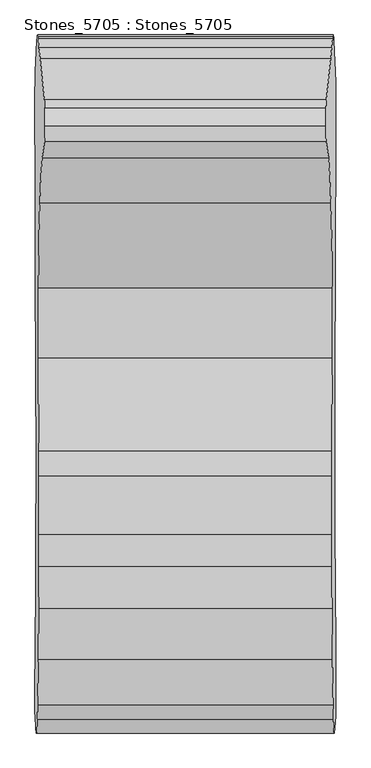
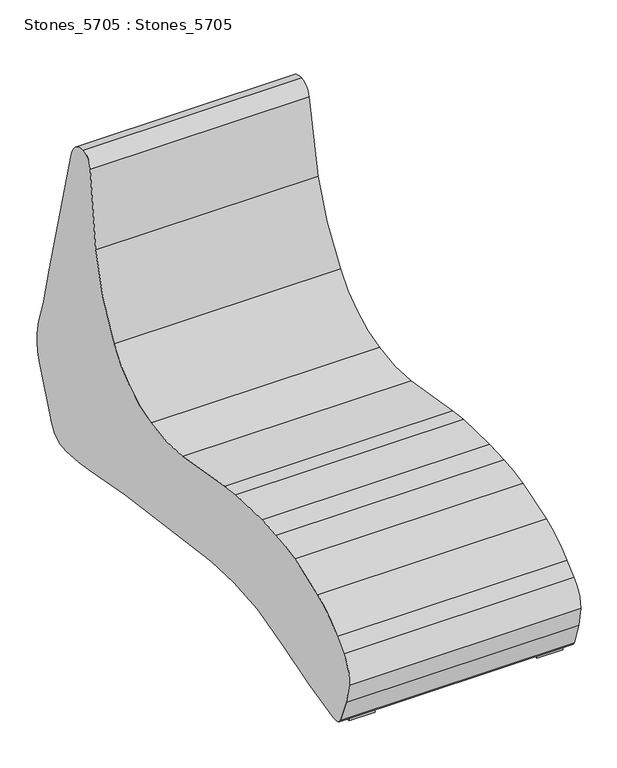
"""IFC4 building model written with IfcOpenShell, lengths in millimetres: furniture geometry, Stones_5705 : Stones_5705."""

from ifc_helpers import new_model, si_unit, frame, origin, origin_with_axes, place, context, project, spatial, polyline, ellipse_curve, outline, extrude, source, transform, mapped, element, save
from ifc_brep_helpers import plane_surface, cylinder_surface, revolved_surface, advanced_brep


def stones_5705_stones_5705_17339cd3(model_context):
    return source(origin(), model_context, "Body", "SolidModel", [
        advanced_brep(
        [(-357.625227, -137.1478931, 8.2630205), (-357.5570917, -127.4895266, 11.1199759), (357.5570917, -127.4895266, 11.1199759), (357.625227, -137.1478931, 8.2630205), (-357.2149059, -105.3452484, 25.468028), (357.2149059, -105.3452484, 25.468028), (-356.6628791, -86.9014651, 48.6148378), (356.6628791, -86.9014651, 48.6148378), (-352.9469523, -13.8199413, 204.4258397), (352.9469523, -13.8199413, 204.4258397), (-351.1131568, 0.0, 281.317971), (351.1131568, 0.0, 281.317971), (-350.355235, -4.4027591, 313.0980783), (350.355235, -4.4027591, 313.0980783), (-350.0250657, -8.2331512, 326.9422737), (350.0250657, -8.2331512, 326.9422737), (-348.1981378, -29.7911542, 403.5464371), (348.1981378, -29.7911542, 403.5464371), (-345.4162211, -55.4959949, 520.1938475), (345.4162211, -55.4959949, 520.1938475), (-335.2071114, -153.1739353, 948.2678455), (335.2071114, -153.1739353, 948.2678455), (-334.342492, -173.7366226, 984.5218463), (334.342492, -173.7366226, 984.5218463), (-333.9733545, -215.9651414, 1000.0), (333.9733545, -215.9651414, 1000.0), (-334.8682189, -253.2640105, 962.4778067), (334.8682189, -253.2640105, 962.4778067), (-340.491559, -291.9329802, 726.6878386), (340.491559, -291.9329802, 726.6878386), (-346.1254649, -399.4275516, 490.4548379), (346.1254649, -399.4275516, 490.4548379), (-349.3026084, -600.6259158, 357.235335), (349.3026084, -600.6259158, 357.235335), (-349.448075, -767.8396094, 351.1358345), (349.448075, -767.8396094, 351.1358345), (-348.5654972, -988.6209784, 388.1428416), (348.5654972, -988.6209784, 388.1428416), (-348.3548612, -1048.6352078, 396.974932), (348.3548612, -1048.6352078, 396.974932), (-357.6746464, -166.7815223, 6.1908353), (357.6746464, -166.7815223, 6.1908353), (-357.3751157, -293.6519886, 18.7503368), (-356.5957999, -478.7460909, 51.4275049), (-355.282294, -885.492078, 106.5035859), (-355.1495688, -928.9243354, 112.0688317), (-355.3053525, -1175.1021406, 105.5367276), (-356.1237181, -1314.8636242, 71.2221744), (-357.0659381, -1453.0565344, 31.7143364), (-357.6610916, -1560.4132119, 6.7591968), (-357.7480936, -1583.0164177, 3.1111497), (-357.6959132, -1607.6789072, 5.2991069), (-357.5846366, -1614.9091309, 9.9649997), (-357.4055589, -1619.841025, 17.4738346), (-355.6366947, -1647.7697517, 91.6433543), (-354.1497683, -1659.9998739, 153.9910573), (-352.2022231, -1627.5580827, 235.6527757), (-351.4066568, -1592.2380629, 269.0113415), (-349.7429635, -1485.0183198, 338.7709827), (-348.7617056, -1363.3145385, 379.9157072), (-348.3672402, -1263.1999337, 396.4558727), (-348.2827166, -1187.3661014, 400.0), (348.2827166, -1187.3661014, 400.0), (348.3672402, -1263.1999337, 396.4558727), (348.7617056, -1363.3145385, 379.9157072), (349.7429635, -1485.0183198, 338.7709827), (351.4066568, -1592.2380629, 269.0113415), (352.2022231, -1627.5580827, 235.6527757), (354.1497683, -1659.9998739, 153.9910573), (355.6366947, -1647.7697517, 91.6433543), (357.4055589, -1619.841025, 17.4738346), (357.5846366, -1614.9091309, 9.9649997), (357.6959132, -1607.6789072, 5.2991069), (357.7480936, -1583.0164177, 3.1111497), (357.6610916, -1560.4132119, 6.7591968), (357.0659381, -1453.0565344, 31.7143364), (356.1237181, -1314.8636242, 71.2221744), (355.3053525, -1175.1021406, 105.5367276), (355.1495688, -928.9243354, 112.0688317), (355.282294, -885.492078, 106.5035859), (356.5957999, -478.7460909, 51.4275049), (357.3751157, -293.6519886, 18.7503368)],
        [
            (0, 1, ellipse_curve(frame((-356.8857064, -141.0685227, 39.2715543), z_axis=(0.9997157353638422, 0.0, -0.02384215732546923), x_axis=(0.023842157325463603, 0.0, 0.9997157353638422)), 31.2642949, 31.2554075)),
            (1, 2),
            (2, 3, ellipse_curve(frame((356.8857064, -141.0685227, 39.2715543), z_axis=(-0.9997157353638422, 0.0, -0.02384215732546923), x_axis=(0.023842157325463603, 0.0, -0.9997157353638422)), 31.2642949, 31.2554075)),
            (3, 0),
            (1, 4, ellipse_curve(frame((-355.2928617, -173.2843532, 106.0604737), z_axis=(0.9997157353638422, 0.0, -0.02384215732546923), x_axis=(0.023842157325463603, 0.0, 0.9997157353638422)), 105.4380568, 105.4080845)),
            (4, 5),
            (5, 2, ellipse_curve(frame((355.2928617, -173.2843532, 106.0604737), z_axis=(-0.9997157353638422, 0.0, -0.02384215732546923), x_axis=(0.023842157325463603, 0.0, -0.9997157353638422)), 105.4380568, 105.4080845)),
            (4, 6, ellipse_curve(frame((-355.8403142, -153.9333781, 83.1054699), z_axis=(0.9997157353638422, 0.0, -0.02384215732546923), x_axis=(0.023842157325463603, 0.0, 0.9997157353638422)), 75.4063215, 75.3848861)),
            (6, 7),
            (7, 5, ellipse_curve(frame((355.8403142, -153.9333781, 83.1054699), z_axis=(-0.9997157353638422, 0.0, -0.02384215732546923), x_axis=(0.023842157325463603, 0.0, -0.9997157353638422)), 75.4063215, 75.3848861)),
            (6, 8, ellipse_curve(frame((-331.0300964, -2175.7511749, 1123.4125506), z_axis=(0.9997157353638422, 0.0, -0.02384215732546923), x_axis=(0.023842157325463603, 0.0, 0.9997157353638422)), 2349.8131821, 2349.1452134)),
            (8, 9),
            (9, 7, ellipse_curve(frame((331.0300964, -2175.7511749, 1123.4125506), z_axis=(-0.9997157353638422, 0.0, -0.02384215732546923), x_axis=(0.023842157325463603, 0.0, -0.9997157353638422)), 2349.8131821, 2349.1452134)),
            (8, 10, ellipse_curve(frame((-351.3070497, -175.58387, 273.1879253), z_axis=(0.9997157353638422, 0.0, -0.02384215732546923), x_axis=(0.023842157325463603, 0.0, 0.9997157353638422)), 175.8219716, 175.7719916)),
            (10, 11),
            (11, 9, ellipse_curve(frame((351.3070497, -175.58387, 273.1879253), z_axis=(-0.9997157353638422, 0.0, -0.02384215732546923), x_axis=(0.023842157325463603, 0.0, -0.9997157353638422)), 175.8219716, 175.7719916)),
            (10, 12, ellipse_curve(frame((-351.3070497, -175.58387, 273.1879253), z_axis=(0.9997157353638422, 0.0, -0.02384215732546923), x_axis=(0.023842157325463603, 0.0, 0.9997157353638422)), 175.8219716, 175.7719916)),
            (12, 13),
            (13, 11, ellipse_curve(frame((351.3070497, -175.58387, 273.1879253), z_axis=(-0.9997157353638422, 0.0, -0.02384215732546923), x_axis=(0.023842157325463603, 0.0, -0.9997157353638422)), 175.8219716, 175.7719916)),
            (12, 14, ellipse_curve(frame((-351.3070497, -175.58387, 273.1879253), z_axis=(0.9997157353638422, 0.0, -0.02384215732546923), x_axis=(0.023842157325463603, 0.0, 0.9997157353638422)), 175.8219716, 175.7719916)),
            (14, 15),
            (15, 13, ellipse_curve(frame((351.3070497, -175.58387, 273.1879253), z_axis=(-0.9997157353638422, 0.0, -0.02384215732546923), x_axis=(0.023842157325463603, 0.0, -0.9997157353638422)), 175.8219716, 175.7719916)),
            (14, 16, ellipse_curve(frame((-342.0664515, 1030.6875758, 660.6516663), z_axis=(-0.9997157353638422, 0.0, 0.02384215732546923), x_axis=(-0.023842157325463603, 0.0, -0.9997157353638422)), 1091.5106425, 1091.2003646)),
            (16, 17),
            (17, 15, ellipse_curve(frame((342.0664515, 1030.6875758, 660.6516663), z_axis=(0.9997157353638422, 0.0, 0.02384215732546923), x_axis=(-0.023842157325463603, 0.0, 0.9997157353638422)), 1091.5106425, 1091.2003646)),
            (16, 18, ellipse_curve(frame((-332.1827892, 2740.0727305, 1075.0794615), z_axis=(-0.9997157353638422, 0.0, 0.02384215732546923), x_axis=(-0.023842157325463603, 0.0, -0.9997157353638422)), 2850.9161219, 2850.1057073)),
            (18, 19),
            (19, 17, ellipse_curve(frame((332.1827892, 2740.0727305, 1075.0794615), z_axis=(0.9997157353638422, 0.0, 0.02384215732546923), x_axis=(-0.023842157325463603, 0.0, 0.9997157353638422)), 2850.9161219, 2850.1057073)),
            (18, 20, ellipse_curve(frame((-381.3156698, -7639.2714517, -985.0912354), z_axis=(0.9997157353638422, 0.0, -0.02384215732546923), x_axis=(0.023842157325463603, 0.0, 0.9997157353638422)), 7733.9210154, 7731.7225351)),
            (20, 21),
            (21, 19, ellipse_curve(frame((381.3156698, -7639.2714517, -985.0912354), z_axis=(-0.9997157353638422, 0.0, -0.02384215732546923), x_axis=(0.023842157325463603, 0.0, -0.9997157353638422)), 7733.9210154, 7731.7225351)),
            (20, 22, ellipse_curve(frame((-335.6847863, -230.7283261, 928.2386534), z_axis=(0.9997157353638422, 0.0, -0.02384215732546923), x_axis=(0.023842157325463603, 0.0, 0.9997157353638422)), 80.12179, 80.0990142)),
            (22, 23),
            (23, 21, ellipse_curve(frame((335.6847863, -230.7283261, 928.2386534), z_axis=(-0.9997157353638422, 0.0, -0.02384215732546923), x_axis=(0.023842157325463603, 0.0, -0.9997157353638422)), 80.12179, 80.0990142)),
            (22, 24, ellipse_curve(frame((-335.2266321, -211.2758175, 947.4493319), z_axis=(0.9997157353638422, 0.0, -0.02384215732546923), x_axis=(0.023842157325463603, 0.0, 0.9997157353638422)), 52.7744795, 52.7594776)),
            (24, 25),
            (25, 23, ellipse_curve(frame((335.2266321, -211.2758175, 947.4493319), z_axis=(-0.9997157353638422, 0.0, -0.02384215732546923), x_axis=(0.023842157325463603, 0.0, -0.9997157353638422)), 52.7744795, 52.7594776)),
            (24, 26, ellipse_curve(frame((-334.9494956, -212.3127647, 959.0698278), z_axis=(0.9997157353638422, 0.0, -0.02384215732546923), x_axis=(0.023842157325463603, 0.0, 0.9997157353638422)), 41.1044923, 41.0928078)),
            (26, 27),
            (27, 25, ellipse_curve(frame((334.9494956, -212.3127647, 959.0698278), z_axis=(-0.9997157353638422, 0.0, -0.02384215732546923), x_axis=(0.023842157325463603, 0.0, -0.9997157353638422)), 41.1044923, 41.0928078)),
            (26, 28, ellipse_curve(frame((-331.8935964, -1752.0273556, 1087.2054843), z_axis=(-0.9997157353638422, 0.0, 0.02384215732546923), x_axis=(-0.023842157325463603, 0.0, -0.9997157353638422)), 1504.3719732, 1503.9443334)),
            (28, 29),
            (29, 27, ellipse_curve(frame((331.8935964, -1752.0273556, 1087.2054843), z_axis=(0.9997157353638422, 0.0, 0.02384215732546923), x_axis=(-0.023842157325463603, 0.0, 0.9997157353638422)), 1504.3719732, 1503.9443334)),
            (28, 30, ellipse_curve(frame((-336.4575698, -976.9795709, 895.835387), z_axis=(-0.9997157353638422, 0.0, 0.02384215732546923), x_axis=(-0.023842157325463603, 0.0, -0.9997157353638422)), 705.8207392, 705.6200993)),
            (30, 31),
            (31, 29, ellipse_curve(frame((336.4575698, -976.9795709, 895.835387), z_axis=(0.9997157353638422, 0.0, 0.02384215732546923), x_axis=(-0.023842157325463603, 0.0, 0.9997157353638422)), 705.8207392, 705.6200993)),
            (30, 32, ellipse_curve(frame((-341.6000383, -669.7727762, 680.208647), z_axis=(-0.9997157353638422, 0.0, 0.02384215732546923), x_axis=(-0.023842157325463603, 0.0, -0.9997157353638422)), 330.3862854, 330.2923683)),
            (32, 33),
            (33, 31, ellipse_curve(frame((341.6000383, -669.7727762, 680.208647), z_axis=(0.9997157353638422, 0.0, 0.02384215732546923), x_axis=(-0.023842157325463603, 0.0, 0.9997157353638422)), 330.3862854, 330.2923683)),
            (32, 34, ellipse_curve(frame((-338.0616615, -701.537193, 828.5748758), z_axis=(-0.9997157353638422, 0.0, 0.02384215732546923), x_axis=(-0.023842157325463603, 0.0, -0.9997157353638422)), 482.1578573, 482.0207968)),
            (34, 35),
            (35, 33, ellipse_curve(frame((338.0616615, -701.537193, 828.5748758), z_axis=(0.9997157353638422, 0.0, 0.02384215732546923), x_axis=(-0.023842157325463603, 0.0, 0.9997157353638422)), 482.1578573, 482.0207968)),
            (34, 36, ellipse_curve(frame((-255.2945206, -219.5889972, 4299.0499666), z_axis=(-0.9997157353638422, 0.0, 0.02384215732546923), x_axis=(-0.023842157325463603, 0.0, -0.9997157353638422)), 3986.9337316, 3985.8003874)),
            (36, 37),
            (37, 35, ellipse_curve(frame((255.2945206, -219.5889972, 4299.0499666), z_axis=(0.9997157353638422, 0.0, 0.02384215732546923), x_axis=(-0.023842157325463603, 0.0, 0.9997157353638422)), 3986.9337316, 3985.8003874)),
            (36, 38, ellipse_curve(frame((-363.3445576, -1110.4763566, -231.5518895), z_axis=(0.9997157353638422, 0.0, -0.02384215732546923), x_axis=(0.023842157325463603, 0.0, 0.9997157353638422)), 631.7413704, 631.5617887)),
            (38, 39),
            (39, 37, ellipse_curve(frame((363.3445576, -1110.4763566, -231.5518895), z_axis=(-0.9997157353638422, 0.0, -0.02384215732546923), x_axis=(0.023842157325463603, 0.0, -0.9997157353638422)), 631.7413704, 631.5617887)),
            (40, 0, ellipse_curve(frame((-351.3415384, -170.4613889, 271.7417931), z_axis=(0.9997157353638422, 0.0, -0.02384215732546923), x_axis=(0.023842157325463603, 0.0, 0.9997157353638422)), 265.6519689, 265.5764534)),
            (3, 41, ellipse_curve(frame((351.3415384, -170.4613889, 271.7417931), z_axis=(-0.9997157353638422, 0.0, -0.02384215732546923), x_axis=(0.023842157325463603, 0.0, -0.9997157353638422)), 265.6519689, 265.5764534)),
            (41, 40),
            (40, 42, ellipse_curve(frame((-346.7918869, -185.6651113, 462.5113678), z_axis=(-0.9997157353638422, 0.0, 0.02384215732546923), x_axis=(0.023842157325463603, 0.0, 0.9997157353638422)), 456.8409522, 456.7110885)),
            (42, 43, ellipse_curve(frame((-391.4455076, -641.292139, -1409.8413166), z_axis=(0.9997157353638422, 0.0, -0.02384215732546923), x_axis=(-0.023842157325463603, 0.0, -0.9997157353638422)), 1470.6996009, 1470.281533)),
            (43, 44, ellipse_curve(frame((-152.2478605, 474.3738122, 8619.8572714), z_axis=(-0.9997157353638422, 0.0, 0.02384215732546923), x_axis=(0.023842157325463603, 0.0, 0.9997157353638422)), 8623.7289491, 8621.2775279)),
            (44, 45, ellipse_curve(frame((-371.9423963, -997.0766229, -592.0643411), z_axis=(0.9997157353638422, 0.0, -0.02384215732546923), x_axis=(-0.023842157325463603, 0.0, -0.9997157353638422)), 707.6248301, 707.4236773)),
            (45, 46, ellipse_curve(frame((-378.9699921, -1025.5975333, -886.735582), z_axis=(0.9997157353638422, 0.0, -0.02384215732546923), x_axis=(-0.023842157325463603, 0.0, -0.9997157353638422)), 1003.7572874, 1003.4719547)),
            (46, 47, ellipse_curve(frame((-373.9345894, -1057.4093803, -675.5981762), z_axis=(0.9997157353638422, 0.0, -0.02384215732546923), x_axis=(-0.023842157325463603, 0.0, -0.9997157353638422)), 790.1760883, 789.9514692)),
            (47, 48, ellipse_curve(frame((-325.8311147, -1752.7399735, 1341.4089223), z_axis=(-0.9997157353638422, 0.0, 0.02384215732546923), x_axis=(0.023842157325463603, 0.0, 0.9997157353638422)), 1343.9258788, 1343.5438482)),
            (48, 49, ellipse_curve(frame((-728.6411494, 2112.0328561, -15548.6536889), z_axis=(0.9997157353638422, 0.0, -0.02384215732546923), x_axis=(-0.023842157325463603, 0.0, -0.9997157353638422)), 15987.5897907, 15983.0450843)),
            (49, 50, ellipse_curve(frame((-346.0455935, -1650.615841, 493.8038901), z_axis=(-0.9997157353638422, 0.0, 0.02384215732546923), x_axis=(0.023842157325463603, 0.0, 0.9997157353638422)), 495.4680566, 495.3272126)),
            (50, 51, ellipse_curve(frame((-356.4393569, -1590.5763277, 57.9872536), z_axis=(-0.9997157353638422, 0.0, 0.02384215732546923), x_axis=(0.023842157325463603, 0.0, 0.9997157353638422)), 55.4101464, 55.3943952)),
            (51, 52, ellipse_curve(frame((-357.3151533, -1602.4965079, 21.2645943), z_axis=(-0.9997157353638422, 0.0, 0.02384215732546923), x_axis=(0.023842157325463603, 0.0, 0.9997157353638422)), 16.7903038, 16.7855309)),
            (52, 53, ellipse_curve(frame((-357.1244198, -1593.7111675, 29.2621612), z_axis=(-0.9997157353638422, 0.0, 0.02384215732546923), x_axis=(0.023842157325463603, 0.0, 0.9997157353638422)), 28.6740557, 28.6659047)),
            (53, 54, ellipse_curve(frame((-351.2978502, -1052.1733385, 273.5736653), z_axis=(-0.9997157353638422, 0.0, 0.02384215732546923), x_axis=(0.023842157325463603, 0.0, 0.9997157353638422)), 622.9400568, 622.762977)),
            (54, 55, ellipse_curve(frame((-353.4789826, -1351.5789988, 182.1174985), z_axis=(-0.9997157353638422, 0.0, 0.02384215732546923), x_axis=(0.023842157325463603, 0.0, 0.9997157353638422)), 309.788777, 309.700715)),
            (55, 56, ellipse_curve(frame((-353.9392755, -1563.2173108, 162.817143), z_axis=(-0.9997157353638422, 0.0, 0.02384215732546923), x_axis=(0.023842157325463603, 0.0, 0.9997157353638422)), 97.2118112, 97.1841773)),
            (56, 57, ellipse_curve(frame((-339.1595536, -2110.6611988, 782.5396111), z_axis=(0.9997157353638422, 0.0, -0.02384215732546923), x_axis=(-0.023842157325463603, 0.0, -0.9997157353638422)), 729.9155346, 729.7080454)),
            (57, 58, ellipse_curve(frame((-356.4769069, -1377.6130268, 56.4127599), z_axis=(-0.9997157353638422, 0.0, 0.02384215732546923), x_axis=(0.023842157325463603, 0.0, 0.9997157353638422)), 302.1820151, 302.0961155)),
            (58, 59, ellipse_curve(frame((-387.9601801, -875.4599815, -1263.6994755), z_axis=(-0.9997157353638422, 0.0, 0.02384215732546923), x_axis=(0.023842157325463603, 0.0, 0.9997157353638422)), 1714.9766257, 1714.4891185)),
            (59, 60, ellipse_curve(frame((-358.0804427, -1247.3358323, -10.8244418), z_axis=(-0.9997157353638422, 0.0, 0.02384215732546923), x_axis=(0.023842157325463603, 0.0, 0.9997157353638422)), 407.7050572, 407.5891611)),
            (60, 61, ellipse_curve(frame((-231.9440227, -1453.348315, 5278.1501308), z_axis=(0.9997157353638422, 0.0, -0.02384215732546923), x_axis=(-0.023842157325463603, 0.0, -0.9997157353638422)), 4886.785259, 4885.3961187)),
            (61, 38, ellipse_curve(frame((-369.9657709, -1137.7926826, -509.1832713), z_axis=(-0.9997157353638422, 0.0, 0.02384215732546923), x_axis=(0.023842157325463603, 0.0, 0.9997157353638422)), 910.7926753, 910.5337691)),
            (39, 62, ellipse_curve(frame((369.9657709, -1137.7926826, -509.1832713), z_axis=(0.9997157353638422, 0.0, 0.02384215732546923), x_axis=(0.023842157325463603, 0.0, -0.9997157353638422)), 910.7926753, 910.5337691)),
            (62, 63, ellipse_curve(frame((231.9440227, -1453.348315, 5278.1501308), z_axis=(-0.9997157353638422, 0.0, -0.02384215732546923), x_axis=(-0.023842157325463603, 0.0, 0.9997157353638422)), 4886.785259, 4885.3961187)),
            (63, 64, ellipse_curve(frame((358.0804427, -1247.3358323, -10.8244418), z_axis=(0.9997157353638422, 0.0, 0.02384215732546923), x_axis=(0.023842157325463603, 0.0, -0.9997157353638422)), 407.7050572, 407.5891611)),
            (64, 65, ellipse_curve(frame((387.9601801, -875.4599815, -1263.6994755), z_axis=(0.9997157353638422, 0.0, 0.02384215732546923), x_axis=(0.023842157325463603, 0.0, -0.9997157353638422)), 1714.9766257, 1714.4891185)),
            (65, 66, ellipse_curve(frame((356.4769069, -1377.6130268, 56.4127599), z_axis=(0.9997157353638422, 0.0, 0.02384215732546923), x_axis=(0.023842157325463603, 0.0, -0.9997157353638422)), 302.1820151, 302.0961155)),
            (66, 67, ellipse_curve(frame((339.1595536, -2110.6611988, 782.5396111), z_axis=(-0.9997157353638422, 0.0, -0.02384215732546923), x_axis=(-0.023842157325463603, 0.0, 0.9997157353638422)), 729.9155346, 729.7080454)),
            (67, 68, ellipse_curve(frame((353.9392755, -1563.2173108, 162.817143), z_axis=(0.9997157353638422, 0.0, 0.02384215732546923), x_axis=(0.023842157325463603, 0.0, -0.9997157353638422)), 97.2118112, 97.1841773)),
            (68, 69, ellipse_curve(frame((353.4789826, -1351.5789988, 182.1174985), z_axis=(0.9997157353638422, 0.0, 0.02384215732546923), x_axis=(0.023842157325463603, 0.0, -0.9997157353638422)), 309.788777, 309.700715)),
            (69, 70, ellipse_curve(frame((351.2978502, -1052.1733385, 273.5736653), z_axis=(0.9997157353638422, 0.0, 0.02384215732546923), x_axis=(0.023842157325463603, 0.0, -0.9997157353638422)), 622.9400568, 622.762977)),
            (70, 71, ellipse_curve(frame((357.1244198, -1593.7111675, 29.2621612), z_axis=(0.9997157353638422, 0.0, 0.02384215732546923), x_axis=(0.023842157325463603, 0.0, -0.9997157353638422)), 28.6740557, 28.6659047)),
            (71, 72, ellipse_curve(frame((357.3151533, -1602.4965079, 21.2645943), z_axis=(0.9997157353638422, 0.0, 0.02384215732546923), x_axis=(0.023842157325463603, 0.0, -0.9997157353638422)), 16.7903038, 16.7855309)),
            (72, 73, ellipse_curve(frame((356.4393569, -1590.5763277, 57.9872536), z_axis=(0.9997157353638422, 0.0, 0.02384215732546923), x_axis=(0.023842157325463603, 0.0, -0.9997157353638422)), 55.4101464, 55.3943952)),
            (73, 74, ellipse_curve(frame((346.0455935, -1650.615841, 493.8038901), z_axis=(0.9997157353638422, 0.0, 0.02384215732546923), x_axis=(0.023842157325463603, 0.0, -0.9997157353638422)), 495.4680566, 495.3272126)),
            (74, 75, ellipse_curve(frame((728.6411494, 2112.0328561, -15548.6536889), z_axis=(-0.9997157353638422, 0.0, -0.02384215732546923), x_axis=(-0.023842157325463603, 0.0, 0.9997157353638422)), 15987.5897907, 15983.0450843)),
            (75, 76, ellipse_curve(frame((325.8311147, -1752.7399735, 1341.4089223), z_axis=(0.9997157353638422, 0.0, 0.02384215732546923), x_axis=(0.023842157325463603, 0.0, -0.9997157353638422)), 1343.9258788, 1343.5438482)),
            (76, 77, ellipse_curve(frame((373.9345894, -1057.4093803, -675.5981762), z_axis=(-0.9997157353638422, 0.0, -0.02384215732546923), x_axis=(-0.023842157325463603, 0.0, 0.9997157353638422)), 790.1760883, 789.9514692)),
            (77, 78, ellipse_curve(frame((378.9699921, -1025.5975333, -886.735582), z_axis=(-0.9997157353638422, 0.0, -0.02384215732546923), x_axis=(-0.023842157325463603, 0.0, 0.9997157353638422)), 1003.7572874, 1003.4719547)),
            (78, 79, ellipse_curve(frame((371.9423963, -997.0766229, -592.0643411), z_axis=(-0.9997157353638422, 0.0, -0.02384215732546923), x_axis=(-0.023842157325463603, 0.0, 0.9997157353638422)), 707.6248301, 707.4236773)),
            (79, 80, ellipse_curve(frame((152.2478605, 474.3738122, 8619.8572714), z_axis=(0.9997157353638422, 0.0, 0.02384215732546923), x_axis=(0.023842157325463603, 0.0, -0.9997157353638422)), 8623.7289491, 8621.2775279)),
            (80, 81, ellipse_curve(frame((391.4455076, -641.292139, -1409.8413166), z_axis=(-0.9997157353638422, 0.0, -0.02384215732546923), x_axis=(-0.023842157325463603, 0.0, 0.9997157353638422)), 1470.6996009, 1470.281533)),
            (81, 41, ellipse_curve(frame((346.7918869, -185.6651113, 462.5113678), z_axis=(0.9997157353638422, 0.0, 0.02384215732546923), x_axis=(0.023842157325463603, 0.0, -0.9997157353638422)), 456.8409522, 456.7110885)),
            (61, 62),
            (60, 63),
            (59, 64),
            (58, 65),
            (57, 66),
            (56, 67),
            (55, 68),
            (54, 69),
            (48, 75),
            (74, 49),
            (47, 76),
            (46, 77),
            (45, 78),
            (44, 79),
            (43, 80),
            (42, 81),
            (53, 70),
            (52, 71),
            (51, 72),
            (50, 73),
        ],
        [
            cylinder_surface(frame((-360.0, -141.0685227, 39.2715543), z_axis=(1.0, 0.0, 0.0), x_axis=(0.0, 1.0, 0.0)), 31.2554075),
            cylinder_surface(frame((-360.0, -173.2843532, 106.0604737), z_axis=(1.0, 0.0, 0.0), x_axis=(0.0, 1.0, 0.0)), 105.4080845),
            cylinder_surface(frame((-360.0, -153.9333781, 83.1054699), z_axis=(1.0, 0.0, 0.0), x_axis=(0.0, 1.0, 0.0)), 75.3848861),
            cylinder_surface(frame((-360.0, -2175.7511749, 1123.4125506), z_axis=(1.0, 0.0, 0.0), x_axis=(0.0, 1.0, 0.0)), 2349.1452134),
            cylinder_surface(frame((-360.0, -175.58387, 273.1879253), z_axis=(1.0, 0.0, 0.0), x_axis=(0.0, 1.0, 0.0)), 175.7719916),
            revolved_surface(polyline([(-368.09041996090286, 2121.8879404, 660.6516663), (368.090419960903, 2121.8879404, 660.6516663)]), (-360.0, 1030.6875758, 660.6516663), (-1.0, 0.0, 0.0)),
            revolved_surface(polyline([(-400.15477990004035, 5590.1784378, 1075.0794615), (400.15477990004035, 5590.1784378, 1075.0794615)]), (-360.0, 2740.0727305, 1075.0794615), (-1.0, 0.0, 0.0)),
            cylinder_surface(frame((-360.0, -7639.2714517, -985.0912354), z_axis=(1.0, 0.0, 0.0), x_axis=(0.0, 1.0, 0.0)), 7731.7225351),
            cylinder_surface(frame((-360.0, -230.7283261, 928.2386534), z_axis=(1.0, 0.0, 0.0), x_axis=(0.0, 1.0, 0.0)), 80.0990142),
            cylinder_surface(frame((-360.0, -211.2758175, 947.4493319), z_axis=(1.0, 0.0, 0.0), x_axis=(0.0, 1.0, 0.0)), 52.7594776),
            cylinder_surface(frame((-360.0, -212.3127647, 959.0698278), z_axis=(1.0, 0.0, 0.0), x_axis=(0.0, 1.0, 0.0)), 41.0928078),
            revolved_surface(polyline([(-367.7610696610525, -248.08302219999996, 1087.2054843), (367.7610696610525, -248.08302219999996, 1087.2054843)]), (-360.0, -1752.0273556, 1087.2054843), (-1.0, 0.0, 0.0)),
            revolved_surface(polyline([(-353.2858589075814, -271.3594716, 895.835387), (353.2858589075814, -271.3594716, 895.835387)]), (-360.0, -976.9795709, 895.835387), (-1.0, 0.0, 0.0)),
            revolved_surface(polyline([(-349.4771600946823, -339.48040789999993, 680.208647), (349.4771600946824, -339.48040789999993, 680.208647)]), (-360.0, -669.7727762, 680.208647), (-1.0, 0.0, 0.0)),
            revolved_surface(polyline([(-349.55734498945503, -219.51639619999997, 828.5748758), (349.55734498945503, -219.51639619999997, 828.5748758)]), (-360.0, -701.537193, 828.5748758), (-1.0, 0.0, 0.0)),
            revolved_surface(polyline([(-350.35162187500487, 3766.2113902, 4299.0499666), (350.35162187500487, 3766.2113902, 4299.0499666)]), (-360.0, -219.5889972, 4299.0499666), (-1.0, 0.0, 0.0)),
            cylinder_surface(frame((-360.0, -1110.4763566, -231.5518895), z_axis=(1.0, 0.0, 0.0), x_axis=(0.0, 1.0, 0.0)), 631.5617887),
            cylinder_surface(frame((-360.0, -170.4613889, 271.7417931), z_axis=(1.0, 0.0, 0.0), x_axis=(0.0, 1.0, 0.0)), 265.5764534),
            plane_surface(frame((-359.1941931, -1853.081951, -57.5246549), z_axis=(-0.9997157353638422, 0.0, 0.02384215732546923), x_axis=(0.0, 1.0, 0.0))),
            plane_surface(frame((332.483384, -1853.081951, 1062.4753451), z_axis=(0.9997157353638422, 0.0, 0.02384215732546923), x_axis=(0.0, 1.0, 0.0))),
            cylinder_surface(frame((-360.0, -1137.7926826, -509.1832713), z_axis=(1.0, 0.0, 0.0), x_axis=(0.0, 1.0, 0.0)), 910.5337691),
            revolved_surface(polyline([(-348.4555256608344, 3432.0478037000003, 5278.1501308), (348.4555256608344, 3432.0478037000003, 5278.1501308)]), (-360.0, -1453.348315, 5278.1501308), (-1.0, 0.0, 0.0)),
            cylinder_surface(frame((-360.0, -1247.3358323, -10.8244418), z_axis=(1.0, 0.0, 0.0), x_axis=(0.0, 1.0, 0.0)), 407.5891611),
            cylinder_surface(frame((-360.0, -875.4599815, -1263.6994755), z_axis=(1.0, 0.0, 0.0), x_axis=(0.0, 1.0, 0.0)), 1714.4891185),
            cylinder_surface(frame((-360.0, -1377.6130268, 56.4127599), z_axis=(1.0, 0.0, 0.0), x_axis=(0.0, 1.0, 0.0)), 302.0961155),
            revolved_surface(polyline([(-356.56231461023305, -1380.9531534, 782.5396111), (356.5623146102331, -1380.9531534, 782.5396111)]), (-360.0, -2110.6611988, 782.5396111), (-1.0, 0.0, 0.0)),
            cylinder_surface(frame((-360.0, -1563.2173108, 162.817143), z_axis=(1.0, 0.0, 0.0), x_axis=(0.0, 1.0, 0.0)), 97.1841773),
            cylinder_surface(frame((-360.0, -1351.5789988, 182.1174985), z_axis=(1.0, 0.0, 0.0), x_axis=(0.0, 1.0, 0.0)), 309.700715),
            revolved_surface(polyline([(-1109.819780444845, 18095.0779404, -15548.6536889), (1109.819780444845, 18095.0779404, -15548.6536889)]), (-360.0, 2112.0328561, -15548.6536889), (-1.0, 0.0, 0.0)),
            cylinder_surface(frame((-360.0, -1752.7399735, 1341.4089223), z_axis=(1.0, 0.0, 0.0), x_axis=(0.0, 1.0, 0.0)), 1343.5438482),
            revolved_surface(polyline([(-392.774092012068, -267.45791110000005, -675.5981762), (392.7740920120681, -267.45791110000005, -675.5981762)]), (-360.0, -1057.4093803, -675.5981762), (-1.0, 0.0, 0.0)),
            revolved_surface(polyline([(-402.9017312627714, -22.125578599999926, -886.735582), (402.90173126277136, -22.125578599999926, -886.735582)]), (-360.0, -1025.5975333, -886.735582), (-1.0, 0.0, 0.0)),
            revolved_surface(polyline([(-388.81369882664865, -289.65294559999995, -592.0643411), (388.81369882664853, -289.65294559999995, -592.0643411)]), (-360.0, -997.0766229, -592.0643411), (-1.0, 0.0, 0.0)),
            cylinder_surface(frame((-360.0, 474.3738122, 8619.8572714), z_axis=(1.0, 0.0, 0.0), x_axis=(0.0, 1.0, 0.0)), 8621.2775279),
            revolved_surface(polyline([(-426.5101588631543, 828.9893940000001, -1409.8413166), (426.5101588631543, 828.9893940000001, -1409.8413166)]), (-360.0, -641.292139, -1409.8413166), (-1.0, 0.0, 0.0)),
            cylinder_surface(frame((-360.0, -185.6651113, 462.5113678), z_axis=(1.0, 0.0, 0.0), x_axis=(0.0, 1.0, 0.0)), 456.7110885),
            cylinder_surface(frame((-360.0, -1052.1733385, 273.5736653), z_axis=(1.0, 0.0, 0.0), x_axis=(0.0, 1.0, 0.0)), 622.762977),
            cylinder_surface(frame((-360.0, -1593.7111675, 29.2621612), z_axis=(1.0, 0.0, 0.0), x_axis=(0.0, 1.0, 0.0)), 28.6659047),
            cylinder_surface(frame((-360.0, -1602.4965079, 21.2645943), z_axis=(1.0, 0.0, 0.0), x_axis=(0.0, 1.0, 0.0)), 16.7855309),
            cylinder_surface(frame((-360.0, -1590.5763277, 57.9872536), z_axis=(1.0, 0.0, 0.0), x_axis=(0.0, 1.0, 0.0)), 55.3943952),
            cylinder_surface(frame((-360.0, -1650.615841, 493.8038901), z_axis=(1.0, 0.0, 0.0), x_axis=(0.0, 1.0, 0.0)), 495.3272126),
        ],
        [
            (0, [[1, 2, 3, 4]]),
            (1, [[5, 6, 7, -2]]),
            (2, [[8, 9, 10, -6]]),
            (3, [[11, 12, 13, -9]]),
            (4, [[14, 15, 16, -12]]),
            (4, [[17, 18, 19, -15]]),
            (4, [[20, 21, 22, -18]]),
            (5, [[23, 24, 25, -21]]),
            (6, [[26, 27, 28, -24]]),
            (7, [[29, 30, 31, -27]]),
            (8, [[32, 33, 34, -30]]),
            (9, [[35, 36, 37, -33]]),
            (10, [[38, 39, 40, -36]]),
            (11, [[41, 42, 43, -39]]),
            (12, [[44, 45, 46, -42]]),
            (13, [[47, 48, 49, -45]]),
            (14, [[50, 51, 52, -48]]),
            (15, [[53, 54, 55, -51]]),
            (16, [[56, 57, 58, -54]]),
            (17, [[59, -4, 60, 61]]),
            (18, [[-1, -59, 62, 63, 64, 65, 66, 67, 68, 69, 70, 71, 72, 73, 74, 75, 76, 77, 78, 79, 80, 81, 82, -56, -53, -50, -47, -44, -41, -38, -35, -32, -29, -26, -23, -20, -17, -14, -11, -8, -5]]),
            (19, [[-3, -7, -10, -13, -16, -19, -22, -25, -28, -31, -34, -37, -40, -43, -46, -49, -52, -55, -58, 83, 84, 85, 86, 87, 88, 89, 90, 91, 92, 93, 94, 95, 96, 97, 98, 99, 100, 101, 102, 103, -60]]),
            (20, [[-82, 104, -83, -57]]),
            (21, [[-81, 105, -84, -104]]),
            (22, [[-80, 106, -85, -105]]),
            (23, [[-79, 107, -86, -106]]),
            (24, [[-78, 108, -87, -107]]),
            (25, [[-77, 109, -88, -108]]),
            (26, [[-76, 110, -89, -109]]),
            (27, [[-75, 111, -90, -110]]),
            (28, [[-69, 112, -96, 113]]),
            (29, [[-68, 114, -97, -112]]),
            (30, [[-67, 115, -98, -114]]),
            (31, [[-66, 116, -99, -115]]),
            (32, [[-65, 117, -100, -116]]),
            (33, [[-64, 118, -101, -117]]),
            (34, [[-63, 119, -102, -118]]),
            (35, [[-62, -61, -103, -119]]),
            (36, [[-74, 120, -91, -111]]),
            (37, [[-73, 121, -92, -120]]),
            (38, [[-72, 122, -93, -121]]),
            (39, [[-71, 123, -94, -122]]),
            (40, [[-70, -113, -95, -123]]),
        ],
    ),
        extrude(outline(polyline([(-247.9834629, -148.4387164), (-247.9834629, -205.7678237), (-327.6494206, -205.7678237), (-327.6494206, -148.4387164), (-247.9834629, -148.4387164)])), origin_with_axes(), (0.0, 0.0, 1.0), 10.0),
        extrude(outline(polyline([(247.9834629, -148.4387164), (327.6494206, -148.4387164), (327.6494206, -205.7678237), (247.9834629, -205.7678237), (247.9834629, -148.4387164)])), origin_with_axes(), (0.0, 0.0, 1.0), 10.0),
        extrude(outline(polyline([(-247.9834629, -1554.7173728), (-247.9834629, -1612.0464801), (-327.6494206, -1612.0464801), (-327.6494206, -1554.7173728), (-247.9834629, -1554.7173728)])), origin_with_axes(), (0.0, 0.0, 1.0), 10.0),
        extrude(outline(polyline([(247.9834629, -1554.7173728), (327.6494206, -1554.7173728), (327.6494206, -1612.0464801), (247.9834629, -1612.0464801), (247.9834629, -1554.7173728)])), origin_with_axes(), (0.0, 0.0, 1.0), 10.0),
    ])


if __name__ == "__main__":
    model = new_model("IFC4")
    model_context = context("Model", 3, world=origin())
    ifc_project = project(units=[si_unit("LENGTHUNIT", "METRE", prefix="MILLI")], contexts=[model_context])
    site = spatial("IfcSite", under=ifc_project)
    building = spatial("IfcBuilding", under=site)
    placement = place(None, origin())
    stones_5705_stones_5705_shape = stones_5705_stones_5705_17339cd3(model_context)
    element("IfcFurniture", 1, ObjectType="Stones_5705 : Stones_5705", at=placement, inside=building, context=model_context, shape_type="MappedRepresentation", body=[
        mapped(stones_5705_stones_5705_shape, transform((0.0, 0.0, 0.0), x_axis=(1.0, 0.0, 0.0), y_axis=(0.0, 1.0, 0.0), z_axis=(0.0, 0.0, 1.0))),
    ])
    save(model, "model.ifc")
